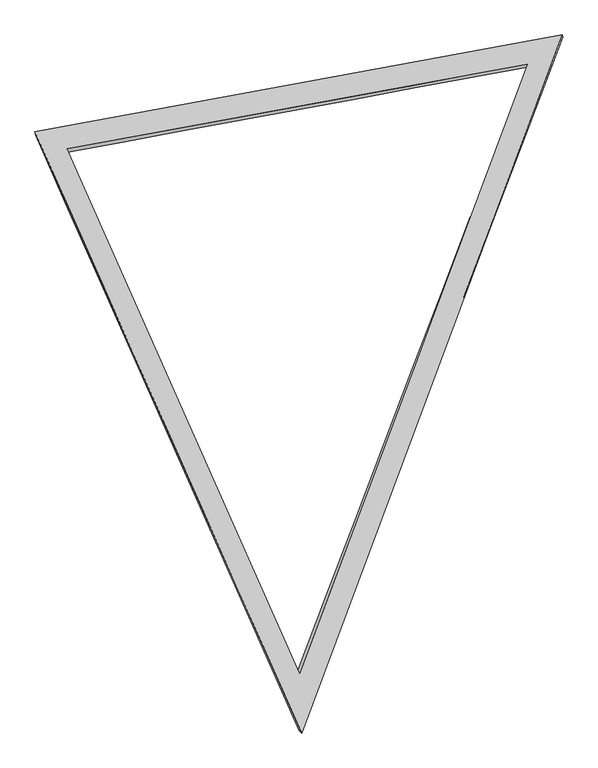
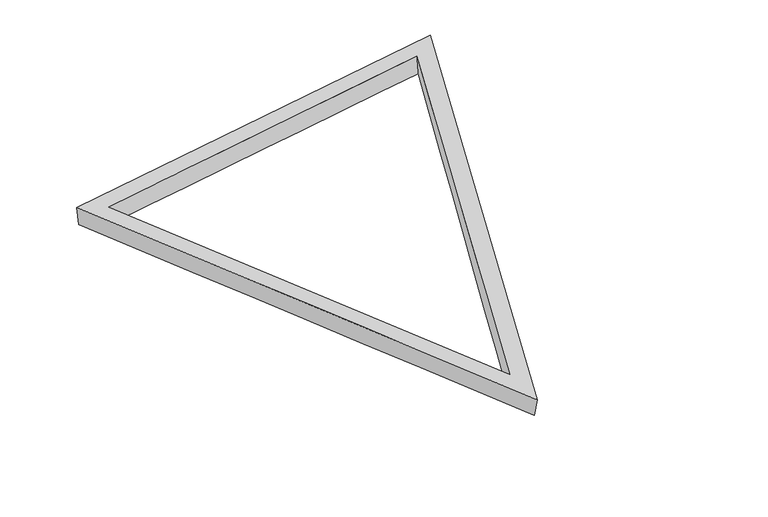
"""IFC4 building model written with IfcOpenShell, lengths in millimetres: plate geometry."""

from ifc_helpers import new_model, si_unit, frame, origin, place, context, project, spatial, source, transform, mapped, element, save
from ifc_brep_helpers import plane_surface, spline_surface, advanced_brep


def plate_9d25faa4(model_context):
    return source(origin(), model_context, "Body", "AdvancedBrep", [
        advanced_brep(
        [(4025.0277362, 6412.9724928, 0.0), (4019.7372455, 6443.0924179, 200.8607468), (6102.2456841, 1748.4463626, 200.7071564), (6081.755493, 1767.9136423, 0.0), (8137.0710539, 7198.4205271, 201.7873483), (8138.4832498, 7174.5976559, 0.0), (6096.0, 1233.8475339, 0.0), (8456.93043, 7440.2133354, 0.0), (8452.7264233, 7462.9187225, 201.8837084), (6118.4260709, 1210.8457919, 200.6445394), (3735.06957, 6565.9391307, 0.0), (3729.4249043, 6596.4253626, 200.8207345)],
        [
            (0, 1),
            (1, 2),
            (2, 3),
            (3, 0),
            (2, 4),
            (4, 5),
            (5, 3),
            (0, 5),
            (4, 1),
            (6, 7),
            (7, 8),
            (8, 9),
            (9, 6),
            (7, 10),
            (10, 11),
            (11, 8),
            (9, 11),
            (10, 6),
        ],
        [
            spline_surface(1, 1, [[(4025.0277362, 6412.9724928, 0.0), (6081.755493, 1767.9136423, 0.0)], [(4019.7372455, 6443.0924179, 200.8607468), (6102.2456841, 1748.4463626, 200.7071564)]], [2, 2], [2, 2], [0.0, 1.0], [0.0, 1.0]),
            spline_surface(1, 1, [[(6081.755493, 1767.9136423, 0.0), (8138.4832498, 7174.5976559, 0.0)], [(6102.2456841, 1748.4463626, 200.7071564), (8137.0710539, 7198.4205271, 201.7873483)]], [2, 2], [2, 2], [0.0, 1.0], [0.0, 1.0]),
            spline_surface(1, 1, [[(8138.4832498, 7174.5976559, 0.0), (4025.0277362, 6412.9724928, 0.0)], [(8137.0710539, 7198.4205271, 201.7873483), (4019.7372455, 6443.0924179, 200.8607468)]], [2, 2], [2, 2], [0.0, 1.0], [0.0, 1.0]),
            spline_surface(1, 1, [[(6096.0, 1233.8475339, 0.0), (6118.4260709, 1210.8457919, 200.6445394)], [(8456.93043, 7440.2133354, 0.0), (8452.7264233, 7462.9187225, 201.8837084)]], [2, 2], [2, 2], [0.0, 1.0], [0.0, 1.0]),
            spline_surface(1, 1, [[(8456.93043, 7440.2133354, 0.0), (8452.7264233, 7462.9187225, 201.8837084)], [(3735.06957, 6565.9391307, 0.0), (3729.4249043, 6596.4253626, 200.8207345)]], [2, 2], [2, 2], [0.0, 1.0], [0.0, 1.0]),
            spline_surface(1, 1, [[(3735.06957, 6565.9391307, 0.0), (3729.4249043, 6596.4253626, 200.8207345)], [(6096.0, 1233.8475339, 0.0), (6118.4260709, 1210.8457919, 200.6445394)]], [2, 2], [2, 2], [0.0, 1.0], [0.0, 1.0]),
            plane_surface(frame((6100.1924662, 5090.0632924, 201.1163275), z_axis=(-0.00020256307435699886, -0.00012257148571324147, 0.9999999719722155), x_axis=(0.4054878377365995, -0.9141004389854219, -2.990578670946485e-05))),
            plane_surface(frame((6096.0, 5080.0, 0.0), z_axis=(-3.079520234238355e-12, 0.0, -1.0000000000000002), x_axis=(-0.4048653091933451, 0.9143763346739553, 1.7397858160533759e-12))),
        ],
        [
            (0, [[1, 2, 3, 4]]),
            (1, [[-3, 5, 6, 7]]),
            (2, [[-1, 8, -6, 9]]),
            (3, [[10, 11, 12, 13]]),
            (4, [[-11, 14, 15, 16]]),
            (5, [[-13, 17, -15, 18]]),
            (6, [[-12, -16, -17], [-2, -9, -5]]),
            (7, [[-10, -18, -14], [-4, -7, -8]]),
        ],
    ),
    ])


if __name__ == "__main__":
    model = new_model("IFC4")
    model_context = context("Model", 3, world=origin())
    ifc_project = project(units=[si_unit("LENGTHUNIT", "METRE", prefix="MILLI")], contexts=[model_context])
    site = spatial("IfcSite", under=ifc_project)
    building = spatial("IfcBuilding", under=site)
    placement = place(None, origin())
    plate_shape = plate_9d25faa4(model_context)
    element("IfcPlate", 1, ObjectType="tn_cpanel_patbase_triangle_flat_seamless_frame_02_cylinder : tn_triangle_seamless_frame_t8\"xh8\"", at=placement, inside=building, context=model_context, shape_type="MappedRepresentation", body=[
        mapped(plate_shape, transform((0.0, 0.0, 0.0), x_axis=(1.0, 0.0, 0.0), y_axis=(0.0, 1.0, 0.0), z_axis=(0.0, 0.0, 1.0))),
    ])
    save(model, "model.ifc")
